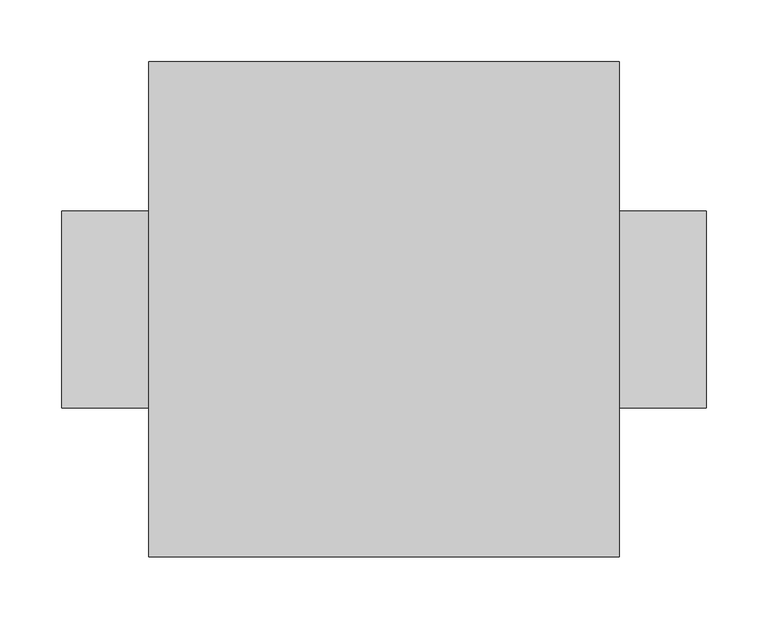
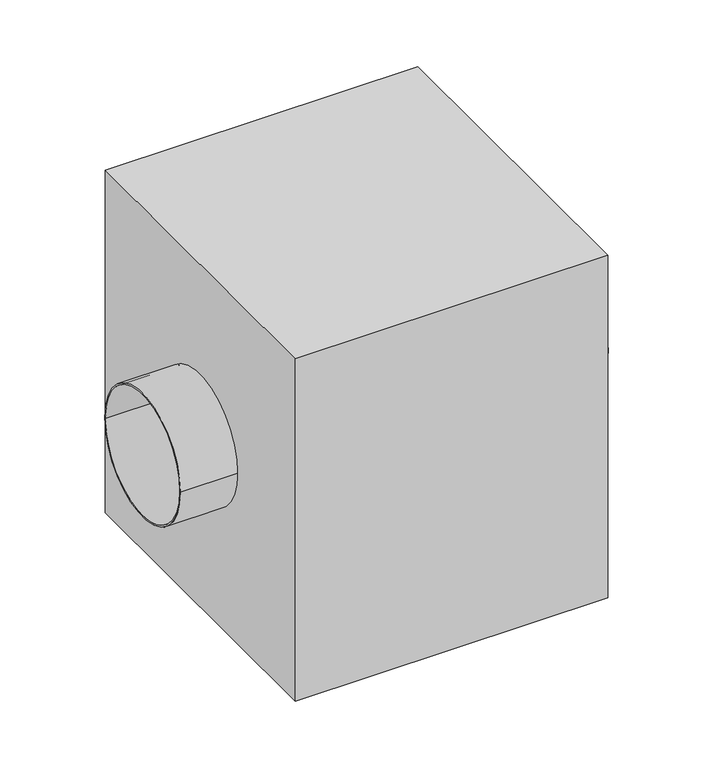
"""IFC4 building model written with IfcOpenShell, lengths in millimetres: proxy geometry, СВ_Вентилятор_КанальныйКруглый_DN100-315_SVK-SVKH : SVKH-160."""

from ifc_helpers import new_model, si_unit, point, frame, origin, origin_2d, place, context, project, spatial, polyline, circle_curve, trimmed, segment, composite_curve, outline, extrude, source, transform, mapped, element, save


def mechanical_equipment_cb800e3f(model_context):
    return source(origin(), model_context, "Body", "SweptSolid", [
        extrude(outline(polyline([(190.0, -200.0), (-190.0, -200.0), (-190.0, 200.0), (190.0, 200.0), (190.0, -200.0)])), frame((0.0, 0.0, -220.0), z_axis=(0.0, 0.0, 1.0), x_axis=(1.0, 0.0, 0.0)), (0.0, 0.0, 1.0), 440.0),
        extrude(outline(composite_curve([segment(trimmed(circle_curve(origin_2d(), 79.5), [point((-79.5, 0.0))], [point((79.5, 0.0))], False, "CARTESIAN"), True, "CONTINUOUS"), segment(trimmed(circle_curve(origin_2d(), 79.5), [point((79.5, 0.0))], [point((-79.5, 0.0))], False, "CARTESIAN"), True, "CONTINUOUS")], self_intersect=False), holes=[composite_curve([segment(trimmed(circle_curve(origin_2d(), 77.5), [point((-77.5, 0.0))], [point((77.5, 0.0))], True, "CARTESIAN"), True, "CONTINUOUS"), segment(trimmed(circle_curve(origin_2d(), 77.5), [point((77.5, 0.0))], [point((-77.5, 0.0))], True, "CARTESIAN"), True, "CONTINUOUS")], self_intersect=False)]), frame((-260.0, 0.0, 0.0), z_axis=(1.0, 0.0, 0.0), x_axis=(0.0, 1.0, 0.0)), (0.0, 0.0, 1.0), 70.0),
        extrude(outline(composite_curve([segment(trimmed(circle_curve(origin_2d(), 79.5), [point((-79.5, 0.0))], [point((79.5, 0.0))], False, "CARTESIAN"), True, "CONTINUOUS"), segment(trimmed(circle_curve(origin_2d(), 79.5), [point((79.5, 0.0))], [point((-79.5, 0.0))], False, "CARTESIAN"), True, "CONTINUOUS")], self_intersect=False), holes=[composite_curve([segment(trimmed(circle_curve(origin_2d(), 77.5), [point((-77.5, 0.0))], [point((77.5, 0.0))], True, "CARTESIAN"), True, "CONTINUOUS"), segment(trimmed(circle_curve(origin_2d(), 77.5), [point((77.5, 0.0))], [point((-77.5, 0.0))], True, "CARTESIAN"), True, "CONTINUOUS")], self_intersect=False)]), frame((190.0, 0.0, 0.0), z_axis=(1.0, 0.0, 0.0), x_axis=(0.0, 1.0, 0.0)), (0.0, 0.0, 1.0), 70.0),
    ])


if __name__ == "__main__":
    model = new_model("IFC4")
    model_context = context("Model", 3, world=origin())
    ifc_project = project(units=[si_unit("LENGTHUNIT", "METRE", prefix="MILLI")], contexts=[model_context])
    site = spatial("IfcSite", under=ifc_project)
    building = spatial("IfcBuilding", under=site)
    placement = place(None, origin())
    mechanical_equipment_shape = mechanical_equipment_cb800e3f(model_context)
    element("IfcBuildingElementProxy", 1, Name="СВ_Вентилятор_КанальныйКруглый_DN100-315_SVK-SVKH : SVKH-160", ObjectType="СВ_Вентилятор_КанальныйКруглый_DN100-315_SVK-SVKH : SVKH-160", at=placement, inside=building, context=model_context, shape_type="MappedRepresentation", body=[
        mapped(mechanical_equipment_shape, transform((0.0, 0.0, 0.0), x_axis=(1.0, 0.0, 0.0), y_axis=(0.0, 1.0, 0.0), z_axis=(0.0, 0.0, 1.0))),
    ])
    save(model, "model.ifc")
